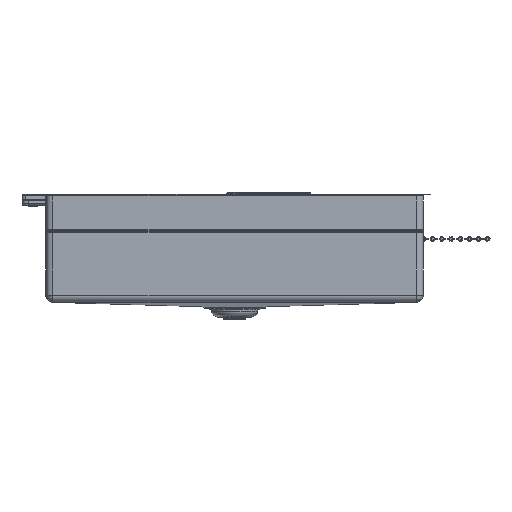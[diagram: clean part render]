
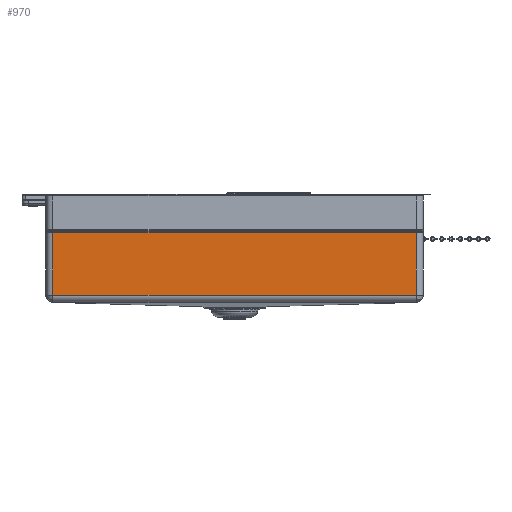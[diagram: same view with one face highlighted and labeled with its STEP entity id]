
A CAD part, front view. The second image highlights one B-rep face of the part: STEP entity #970.
In plain terms, the highlighted planar face has unit normal (0, -1, 0).
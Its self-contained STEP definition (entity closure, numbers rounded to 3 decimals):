
#970=ADVANCED_FACE('',(#5633),#80744,.T.);
#5633=FACE_OUTER_BOUND('',#10298,.T.);
#10298=EDGE_LOOP('',(#15697,#15698,#15699,#15700));
#15697=ORIENTED_EDGE('',*,*,#41433,.F.);
#15698=ORIENTED_EDGE('',*,*,#41447,.F.);
#15699=ORIENTED_EDGE('',*,*,#41448,.T.);
#15700=ORIENTED_EDGE('',*,*,#41449,.T.);
#41433=EDGE_CURVE('',#71600,#71604,#54397,.T.);
#41447=EDGE_CURVE('',#71656,#71600,#54406,.T.);
#41448=EDGE_CURVE('',#71656,#71657,#54407,.T.);
#41449=EDGE_CURVE('',#71657,#71604,#54408,.T.);
#54397=B_SPLINE_CURVE_WITH_KNOTS('',1,(#111280,#111281),.UNSPECIFIED.,.F.,
 .F.,(2,2),(0.,676.),.UNSPECIFIED.);
#54406=B_SPLINE_CURVE_WITH_KNOTS('',1,(#111313,#111314),.UNSPECIFIED.,.F.,
 .F.,(2,2),(0.,117.),.UNSPECIFIED.);
#54407=B_SPLINE_CURVE_WITH_KNOTS('',1,(#111315,#111316),.UNSPECIFIED.,.F.,
 .F.,(2,2),(0.,676.),.UNSPECIFIED.);
#54408=B_SPLINE_CURVE_WITH_KNOTS('',1,(#111317,#111318),.UNSPECIFIED.,.F.,
 .F.,(2,2),(0.,117.),.UNSPECIFIED.);
#71600=VERTEX_POINT('',#110683);
#71604=VERTEX_POINT('',#110687);
#71656=VERTEX_POINT('',#110739);
#71657=VERTEX_POINT('',#110740);
#80744=PLANE('',#85704);
#85704=AXIS2_PLACEMENT_3D('',#107653,#94155,$);
#94155=DIRECTION('',(0.,-1.,0.));
#107653=CARTESIAN_POINT('',(405.72,-223.195,-59.18));
#110683=CARTESIAN_POINT('',(338.,-223.195,-188.));
#110687=CARTESIAN_POINT('',(-338.,-223.195,-188.));
#110739=CARTESIAN_POINT('',(338.,-223.195,-71.));
#110740=CARTESIAN_POINT('',(-338.,-223.195,-71.));
#111280=CARTESIAN_POINT('',(338.,-223.195,-188.));
#111281=CARTESIAN_POINT('',(-338.,-223.195,-188.));
#111313=CARTESIAN_POINT('',(338.,-223.195,-71.));
#111314=CARTESIAN_POINT('',(338.,-223.195,-188.));
#111315=CARTESIAN_POINT('',(338.,-223.195,-71.));
#111316=CARTESIAN_POINT('',(-338.,-223.195,-71.));
#111317=CARTESIAN_POINT('',(-338.,-223.195,-71.));
#111318=CARTESIAN_POINT('',(-338.,-223.195,-188.));
